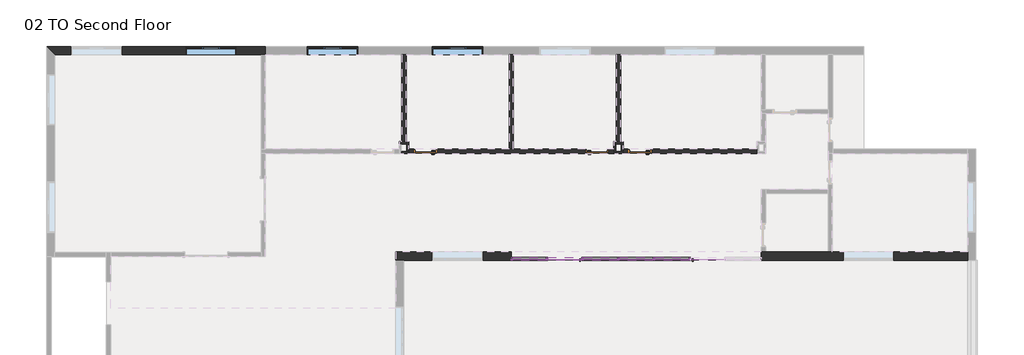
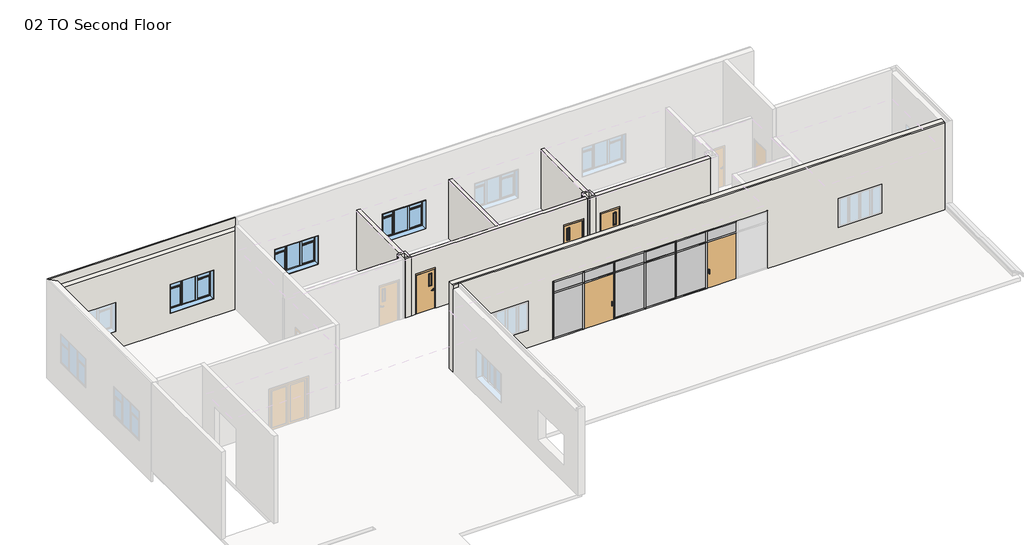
# One storey, part 2 of 3: 27 members, 14 walls, 10 plates, 5 doors, 3 windows.
"""IFC4 building model written with IfcOpenShell, lengths in millimetres."""

from ifc_helpers import new_model, si_unit, frame, origin, place, context, project, spatial, polyline, outline, extrude, faceted_brep, transform, mapped, element, save
from components import door_curtain_wall_single_glass_single_glass_door_636c359d, door_curtain_wall_single_glass_single_glass_door_c1f067f7, door_a53d2063, door_a2a745b5, member_f0fea5a5, member_ee409385, member_5599eeff, member_9faf9a02, member_3e00a44d, member_1f7e5a3f, member_6e77e263, member_47bfaf8a, system_panel_glazed_c45153f5, system_panel_glazed_32f3d69c, system_panel_glazed_47a57bc4, system_panel_glazed_e930eb41, window_casement_triple_side_transom_c3c25feb

model = new_model("IFC4")

# Units and contexts
model_context = context("Model", 3, world=origin())
ifc_project = project(units=[si_unit("LENGTHUNIT", "METRE", prefix="MILLI")], contexts=[model_context])

# Site, building, storey
site = spatial("IfcSite", under=ifc_project)
building = spatial("IfcBuilding", under=site)
storey = spatial("IfcBuildingStorey", under=building, Name="02 TO Second Floor", Elevation=4572.0)

# Doors
placement = place(None, origin())
door_curtain_wall_single_glass_single_glass_door_shape = door_curtain_wall_single_glass_single_glass_door_636c359d(model_context)
element("IfcDoor", 1, ObjectType="Door-Curtain-Wall-Single-Glass : Single Glass Door", at=placement, inside=storey, context=model_context, shape_type="MappedRepresentation", body=[
    mapped(door_curtain_wall_single_glass_single_glass_door_shape, transform((8671.2726299, 179.1996638, 4572.0), x_axis=(1.0, 0.0, 0.0), y_axis=(0.0, 1.0, 0.0), z_axis=(0.0, 0.0, 1.0))),
])
door_curtain_wall_single_glass_single_glass_door_2_shape = door_curtain_wall_single_glass_single_glass_door_c1f067f7(model_context)
element("IfcDoor", 2, ObjectType="Door-Curtain-Wall-Single-Glass : Single Glass Door", at=placement, inside=storey, context=model_context, shape_type="MappedRepresentation", body=[
    mapped(door_curtain_wall_single_glass_single_glass_door_2_shape, transform((2575.2726302, 179.1996638, 4572.0), x_axis=(-1.0, 0.0, 0.0), y_axis=(0.0, -1.0, 0.0), z_axis=(0.0, 0.0, 1.0))),
])
door_shape = door_a53d2063(model_context)
element("IfcDoor", 3, ObjectType="Door-Passage-Single-Vision_Lite : Door Passage Single Vision Lite_36\" x 80\"", at=placement, inside=storey, context=model_context, shape_type="MappedRepresentation", body=[
    mapped(door_shape, transform((3946.8726301, 4776.5996638, 4572.0), x_axis=(1.0, 0.0, 0.0), y_axis=(0.0, 1.0, 0.0), z_axis=(0.0, 0.0, 1.0))),
])
door_2_shape = door_a2a745b5(model_context)
element("IfcDoor", 4, ObjectType="Door-Passage-Single-Vision_Lite : Door Passage Single Vision Lite_36\" x 80\"", at=placement, inside=storey, context=model_context, shape_type="MappedRepresentation", body=[
    mapped(door_2_shape, transform((-3368.3273699, 4776.5996638, 4572.0), x_axis=(-1.0, 0.0, 0.0), y_axis=(0.0, -1.0, 0.0), z_axis=(0.0, 0.0, 1.0))),
])
element("IfcDoor", 5, ObjectType="Door-Passage-Single-Vision_Lite : Door Passage Single Vision Lite_36\" x 80\"", at=placement, inside=storey, context=model_context, shape_type="MappedRepresentation", body=[
    mapped(door_2_shape, transform((5775.6726301, 4776.5996638, 4572.0), x_axis=(-1.0, 0.0, 0.0), y_axis=(0.0, -1.0, 0.0), z_axis=(0.0, 0.0, 1.0))),
])

# Members
member_shape = member_f0fea5a5(model_context)
element("IfcMember", 6, ObjectType="Rectangular Mullion : 2.5\" x 5\" rectangular", at=placement, inside=storey, context=model_context, shape_type="MappedRepresentation", body=[
    mapped(member_shape, transform((1813.2726303, 179.1996638, 4572.0), x_axis=(1.0, 0.0, 0.0), y_axis=(0.0, -1.0, 0.0), z_axis=(0.0, 0.0, -1.0))),
])
element("IfcMember", 7, ObjectType="Rectangular Mullion : 2.5\" x 5\" rectangular", at=placement, inside=storey, context=model_context, shape_type="MappedRepresentation", body=[
    mapped(member_shape, transform((3337.2726302, 179.1996638, 4572.0), x_axis=(1.0, 0.0, 0.0), y_axis=(0.0, -1.0, 0.0), z_axis=(0.0, 0.0, -1.0))),
])
element("IfcMember", 8, ObjectType="Rectangular Mullion : 2.5\" x 5\" rectangular", at=placement, inside=storey, context=model_context, shape_type="MappedRepresentation", body=[
    mapped(member_shape, transform((4861.2726301, 179.1996638, 4572.0), x_axis=(1.0, 0.0, 0.0), y_axis=(0.0, -1.0, 0.0), z_axis=(0.0, 0.0, -1.0))),
])
element("IfcMember", 9, ObjectType="Rectangular Mullion : 2.5\" x 5\" rectangular", at=placement, inside=storey, context=model_context, shape_type="MappedRepresentation", body=[
    mapped(member_shape, transform((6385.27263, 179.1996638, 4572.0), x_axis=(1.0, 0.0, 0.0), y_axis=(0.0, -1.0, 0.0), z_axis=(0.0, 0.0, -1.0))),
])
element("IfcMember", 10, ObjectType="Rectangular Mullion : 2.5\" x 5\" rectangular", at=placement, inside=storey, context=model_context, shape_type="MappedRepresentation", body=[
    mapped(member_shape, transform((7909.2726299, 179.1996638, 4572.0), x_axis=(1.0, 0.0, 0.0), y_axis=(0.0, -1.0, 0.0), z_axis=(0.0, 0.0, -1.0))),
])
member_2_shape = member_ee409385(model_context)
element("IfcMember", 11, ObjectType="Rectangular Mullion : 2.5\" x 5\" rectangular", at=placement, inside=storey, context=model_context, shape_type="MappedRepresentation", body=[
    mapped(member_2_shape, transform((289.2726301, 179.1996638, 7010.4), x_axis=(-1.0, 0.0, 0.0), y_axis=(0.0, -1.0, 0.0), z_axis=(0.0, 0.0, 1.0))),
])
member_3_shape = member_5599eeff(model_context)
element("IfcMember", 12, ObjectType="Rectangular Mullion : 2.5\" x 5\" rectangular", at=placement, inside=storey, context=model_context, shape_type="MappedRepresentation", body=[
    mapped(member_3_shape, transform((1781.5226303, 179.1996638, 7620.0), x_axis=(0.0, 0.0, 1.0), y_axis=(0.0, -1.0, 0.0), z_axis=(1.0, 0.0, 0.0))),
])
member_4_shape = member_9faf9a02(model_context)
element("IfcMember", 13, ObjectType="Rectangular Mullion : 2.5\" x 5\" rectangular", at=placement, inside=storey, context=model_context, shape_type="MappedRepresentation", body=[
    mapped(member_4_shape, transform((3305.5226302, 179.1996638, 7620.0), x_axis=(0.0, 0.0, 1.0), y_axis=(0.0, -1.0, 0.0), z_axis=(1.0, 0.0, 0.0))),
])
element("IfcMember", 14, ObjectType="Rectangular Mullion : 2.5\" x 5\" rectangular", at=placement, inside=storey, context=model_context, shape_type="MappedRepresentation", body=[
    mapped(member_4_shape, transform((4829.5226301, 179.1996638, 7620.0), x_axis=(0.0, 0.0, 1.0), y_axis=(0.0, -1.0, 0.0), z_axis=(1.0, 0.0, 0.0))),
])
element("IfcMember", 15, ObjectType="Rectangular Mullion : 2.5\" x 5\" rectangular", at=placement, inside=storey, context=model_context, shape_type="MappedRepresentation", body=[
    mapped(member_4_shape, transform((6353.52263, 179.1996638, 7620.0), x_axis=(0.0, 0.0, 1.0), y_axis=(0.0, -1.0, 0.0), z_axis=(1.0, 0.0, 0.0))),
])
element("IfcMember", 16, ObjectType="Rectangular Mullion : 2.5\" x 5\" rectangular", at=placement, inside=storey, context=model_context, shape_type="MappedRepresentation", body=[
    mapped(member_4_shape, transform((7877.5226299, 179.1996638, 7620.0), x_axis=(0.0, 0.0, 1.0), y_axis=(0.0, -1.0, 0.0), z_axis=(1.0, 0.0, 0.0))),
])
element("IfcMember", 17, ObjectType="Rectangular Mullion : 2.5\" x 5\" rectangular", at=placement, inside=storey, context=model_context, shape_type="MappedRepresentation", body=[
    mapped(member_4_shape, transform((9401.5226298, 179.1996638, 7620.0), x_axis=(0.0, 0.0, 1.0), y_axis=(0.0, -1.0, 0.0), z_axis=(1.0, 0.0, 0.0))),
])
element("IfcMember", 18, ObjectType="Rectangular Mullion : 2.5\" x 5\" rectangular", at=placement, inside=storey, context=model_context, shape_type="MappedRepresentation", body=[
    mapped(member_3_shape, transform((352.7726301, 179.1996638, 4572.0), x_axis=(0.0, 0.0, -1.0), y_axis=(0.0, -1.0, 0.0), z_axis=(-1.0, 0.0, 0.0))),
])
element("IfcMember", 19, ObjectType="Rectangular Mullion : 2.5\" x 5\" rectangular", at=placement, inside=storey, context=model_context, shape_type="MappedRepresentation", body=[
    mapped(member_4_shape, transform((3369.0226302, 179.1996638, 4572.0), x_axis=(0.0, 0.0, -1.0), y_axis=(0.0, -1.0, 0.0), z_axis=(-1.0, 0.0, 0.0))),
])
element("IfcMember", 20, ObjectType="Rectangular Mullion : 2.5\" x 5\" rectangular", at=placement, inside=storey, context=model_context, shape_type="MappedRepresentation", body=[
    mapped(member_4_shape, transform((4893.0226301, 179.1996638, 4572.0), x_axis=(0.0, 0.0, -1.0), y_axis=(0.0, -1.0, 0.0), z_axis=(-1.0, 0.0, 0.0))),
])
element("IfcMember", 21, ObjectType="Rectangular Mullion : 2.5\" x 5\" rectangular", at=placement, inside=storey, context=model_context, shape_type="MappedRepresentation", body=[
    mapped(member_4_shape, transform((6417.02263, 179.1996638, 4572.0), x_axis=(0.0, 0.0, -1.0), y_axis=(0.0, -1.0, 0.0), z_axis=(-1.0, 0.0, 0.0))),
])
member_5_shape = member_3e00a44d(model_context)
element("IfcMember", 22, ObjectType="Rectangular Mullion : 2.5\" x 5\" rectangular", at=placement, inside=storey, context=model_context, shape_type="MappedRepresentation", body=[
    mapped(member_5_shape, transform((1781.5226303, 179.1996638, 7010.4), x_axis=(0.0, 0.0, 1.0), y_axis=(0.0, -1.0, 0.0), z_axis=(1.0, 0.0, 0.0))),
])
member_6_shape = member_1f7e5a3f(model_context)
element("IfcMember", 23, ObjectType="Rectangular Mullion : 2.5\" x 5\" rectangular", at=placement, inside=storey, context=model_context, shape_type="MappedRepresentation", body=[
    mapped(member_6_shape, transform((3305.5226302, 179.1996638, 7010.4), x_axis=(0.0, 0.0, 1.0), y_axis=(0.0, -1.0, 0.0), z_axis=(1.0, 0.0, 0.0))),
])
element("IfcMember", 24, ObjectType="Rectangular Mullion : 2.5\" x 5\" rectangular", at=placement, inside=storey, context=model_context, shape_type="MappedRepresentation", body=[
    mapped(member_6_shape, transform((4829.5226301, 179.1996638, 7010.4), x_axis=(0.0, 0.0, 1.0), y_axis=(0.0, -1.0, 0.0), z_axis=(1.0, 0.0, 0.0))),
])
element("IfcMember", 25, ObjectType="Rectangular Mullion : 2.5\" x 5\" rectangular", at=placement, inside=storey, context=model_context, shape_type="MappedRepresentation", body=[
    mapped(member_6_shape, transform((6353.52263, 179.1996638, 7010.4), x_axis=(0.0, 0.0, 1.0), y_axis=(0.0, -1.0, 0.0), z_axis=(1.0, 0.0, 0.0))),
])
element("IfcMember", 26, ObjectType="Rectangular Mullion : 2.5\" x 5\" rectangular", at=placement, inside=storey, context=model_context, shape_type="MappedRepresentation", body=[
    mapped(member_6_shape, transform((7877.5226299, 179.1996638, 7010.4), x_axis=(0.0, 0.0, 1.0), y_axis=(0.0, -1.0, 0.0), z_axis=(1.0, 0.0, 0.0))),
])
member_7_shape = member_6e77e263(model_context)
element("IfcMember", 27, ObjectType="Rectangular Mullion : 2.5\" x 5\" rectangular", at=placement, inside=storey, context=model_context, shape_type="MappedRepresentation", body=[
    mapped(member_7_shape, transform((1813.2726303, 179.1996638, 7010.4), x_axis=(1.0, 0.0, 0.0), y_axis=(0.0, -1.0, 0.0), z_axis=(0.0, 0.0, -1.0))),
])
element("IfcMember", 28, ObjectType="Rectangular Mullion : 2.5\" x 5\" rectangular", at=placement, inside=storey, context=model_context, shape_type="MappedRepresentation", body=[
    mapped(member_7_shape, transform((3337.2726302, 179.1996638, 7010.4), x_axis=(1.0, 0.0, 0.0), y_axis=(0.0, -1.0, 0.0), z_axis=(0.0, 0.0, -1.0))),
])
element("IfcMember", 29, ObjectType="Rectangular Mullion : 2.5\" x 5\" rectangular", at=placement, inside=storey, context=model_context, shape_type="MappedRepresentation", body=[
    mapped(member_7_shape, transform((4861.2726301, 179.1996638, 7010.4), x_axis=(1.0, 0.0, 0.0), y_axis=(0.0, -1.0, 0.0), z_axis=(0.0, 0.0, -1.0))),
])
element("IfcMember", 30, ObjectType="Rectangular Mullion : 2.5\" x 5\" rectangular", at=placement, inside=storey, context=model_context, shape_type="MappedRepresentation", body=[
    mapped(member_7_shape, transform((6385.27263, 179.1996638, 7010.4), x_axis=(1.0, 0.0, 0.0), y_axis=(0.0, -1.0, 0.0), z_axis=(0.0, 0.0, -1.0))),
])
element("IfcMember", 31, ObjectType="Rectangular Mullion : 2.5\" x 5\" rectangular", at=placement, inside=storey, context=model_context, shape_type="MappedRepresentation", body=[
    mapped(member_7_shape, transform((7909.2726299, 179.1996638, 7010.4), x_axis=(1.0, 0.0, 0.0), y_axis=(0.0, -1.0, 0.0), z_axis=(0.0, 0.0, -1.0))),
])
member_8_shape = member_47bfaf8a(model_context)
element("IfcMember", 32, ObjectType="Rectangular Mullion : 2.5\" x 5\" rectangular", at=placement, inside=storey, context=model_context, shape_type="MappedRepresentation", body=[
    mapped(member_8_shape, transform((289.2726301, 179.1996638, 7620.0), x_axis=(-1.0, 0.0, 0.0), y_axis=(0.0, -1.0, 0.0), z_axis=(0.0, 0.0, 1.0))),
])

# Plates
system_panel_glazed_shape = system_panel_glazed_c45153f5(model_context)
element("IfcPlate", 33, ObjectType="System Panel : Glazed", at=placement, inside=storey, context=model_context, shape_type="MappedRepresentation", body=[
    mapped(system_panel_glazed_shape, transform((1067.1476302, 179.1996638, 4635.5), x_axis=(1.0, 0.0, 0.0), y_axis=(0.0, 1.0, 0.0), z_axis=(0.0, 0.0, 1.0))),
])
system_panel_glazed_2_shape = system_panel_glazed_32f3d69c(model_context)
element("IfcPlate", 34, ObjectType="System Panel : Glazed", at=placement, inside=storey, context=model_context, shape_type="MappedRepresentation", body=[
    mapped(system_panel_glazed_2_shape, transform((4099.2726301, 179.1996638, 4635.5), x_axis=(1.0, 0.0, 0.0), y_axis=(0.0, 1.0, 0.0), z_axis=(0.0, 0.0, 1.0))),
])
element("IfcPlate", 35, ObjectType="System Panel : Glazed", at=placement, inside=storey, context=model_context, shape_type="MappedRepresentation", body=[
    mapped(system_panel_glazed_2_shape, transform((5623.2726301, 179.1996638, 4635.5), x_axis=(1.0, 0.0, 0.0), y_axis=(0.0, 1.0, 0.0), z_axis=(0.0, 0.0, 1.0))),
])
element("IfcPlate", 36, ObjectType="System Panel : Glazed", at=placement, inside=storey, context=model_context, shape_type="MappedRepresentation", body=[
    mapped(system_panel_glazed_2_shape, transform((7147.27263, 179.1996638, 4635.5), x_axis=(1.0, 0.0, 0.0), y_axis=(0.0, 1.0, 0.0), z_axis=(0.0, 0.0, 1.0))),
])
system_panel_glazed_3_shape = system_panel_glazed_47a57bc4(model_context)
element("IfcPlate", 37, ObjectType="System Panel : Glazed", at=placement, inside=storey, context=model_context, shape_type="MappedRepresentation", body=[
    mapped(system_panel_glazed_3_shape, transform((1067.1476302, 179.1996638, 7042.15), x_axis=(1.0, 0.0, 0.0), y_axis=(0.0, 1.0, 0.0), z_axis=(0.0, 0.0, 1.0))),
])
system_panel_glazed_4_shape = system_panel_glazed_e930eb41(model_context)
element("IfcPlate", 38, ObjectType="System Panel : Glazed", at=placement, inside=storey, context=model_context, shape_type="MappedRepresentation", body=[
    mapped(system_panel_glazed_4_shape, transform((2575.2726302, 179.1996638, 7042.15), x_axis=(1.0, 0.0, 0.0), y_axis=(0.0, 1.0, 0.0), z_axis=(0.0, 0.0, 1.0))),
])
element("IfcPlate", 39, ObjectType="System Panel : Glazed", at=placement, inside=storey, context=model_context, shape_type="MappedRepresentation", body=[
    mapped(system_panel_glazed_4_shape, transform((4099.2726301, 179.1996638, 7042.15), x_axis=(1.0, 0.0, 0.0), y_axis=(0.0, 1.0, 0.0), z_axis=(0.0, 0.0, 1.0))),
])
element("IfcPlate", 40, ObjectType="System Panel : Glazed", at=placement, inside=storey, context=model_context, shape_type="MappedRepresentation", body=[
    mapped(system_panel_glazed_4_shape, transform((5623.2726301, 179.1996638, 7042.15), x_axis=(1.0, 0.0, 0.0), y_axis=(0.0, 1.0, 0.0), z_axis=(0.0, 0.0, 1.0))),
])
element("IfcPlate", 41, ObjectType="System Panel : Glazed", at=placement, inside=storey, context=model_context, shape_type="MappedRepresentation", body=[
    mapped(system_panel_glazed_4_shape, transform((7147.27263, 179.1996638, 7042.15), x_axis=(1.0, 0.0, 0.0), y_axis=(0.0, 1.0, 0.0), z_axis=(0.0, 0.0, 1.0))),
])
element("IfcPlate", 42, ObjectType="System Panel : Glazed", at=placement, inside=storey, context=model_context, shape_type="MappedRepresentation", body=[
    mapped(system_panel_glazed_4_shape, transform((8671.2726299, 179.1996638, 7042.15), x_axis=(1.0, 0.0, 0.0), y_axis=(0.0, 1.0, 0.0), z_axis=(0.0, 0.0, 1.0))),
])

# Walls
element("IfcWall", 43, ObjectType="Ext Wall_14\"_Brick on CMU_E1", at=placement, inside=storey, context=model_context, shape_type="Brep", body=[
    faceted_brep([(-19167.1273699, 8894.5746638, 4572.0), (-10378.7273699, 8894.5746638, 4572.0), (-10200.9273699, 8894.5746638, 4572.0), (-10200.9273699, 8894.5746638, 8686.8), (-19167.1273699, 8894.5746638, 8686.8), (-11432.8273699, 8894.5746638, 7010.4), (-11432.8273699, 8894.5746638, 5486.4), (-13591.8273699, 8894.5746638, 5486.4), (-13591.8273699, 8894.5746638, 7010.4), (-16309.6273699, 8894.5746638, 7010.4), (-16309.6273699, 8894.5746638, 5486.4), (-18468.6273699, 8894.5746638, 5486.4), (-18468.6273699, 8894.5746638, 7010.4), (-10200.9273699, 9250.1746638, 9144.0), (-10200.9273699, 9250.1746638, 4572.0), (-10200.9273699, 9250.1746638, 3962.4), (-19522.7273699, 9250.1746638, 3962.4), (-19522.7273699, 9250.1746638, 9144.0), (-11432.8273699, 9250.1746638, 5486.4), (-11432.8273699, 9250.1746638, 7010.4), (-13591.8273699, 9250.1746638, 7010.4), (-13591.8273699, 9250.1746638, 5486.4), (-16309.6273699, 9250.1746638, 5486.4), (-16309.6273699, 9250.1746638, 7010.4), (-18468.6273699, 9250.1746638, 7010.4), (-18468.6273699, 9250.1746638, 5486.4), (-10200.9273699, 9148.5746638, 4572.0), (-10200.9273699, 9173.9746638, 4572.0), (-10200.9273699, 9173.9746638, 3962.4), (-10200.9273699, 9173.9746638, 9144.0), (-10200.9273699, 9173.9746638, 8686.8), (-19446.5273699, 9173.9746638, 8686.8), (-19446.5273699, 9173.9746638, 9144.0), (-19446.5273699, 9173.9746638, 3962.4), (-19446.5273699, 9173.9746638, 4572.0), (-19421.1273699, 9148.5746638, 4572.0)], [[[0, 1, 2, 3, 4], [5, 6, 7, 8], [9, 10, 11, 12]], [[13, 14, 15, 16, 17], [18, 19, 20, 21], [22, 23, 24, 25]], [[3, 2, 26, 27, 28, 15, 14, 13, 29, 30]], [[0, 4, 31, 32, 17, 16, 33, 34, 35]], [[6, 5, 19, 18]], [[7, 6, 18, 21]], [[8, 7, 21, 20]], [[5, 8, 20, 19]], [[10, 9, 23, 22]], [[11, 10, 22, 25]], [[12, 11, 25, 24]], [[9, 12, 24, 23]], [[2, 1, 0, 35, 34, 27, 26]], [[27, 34, 33, 28]], [[33, 16, 15, 28]], [[13, 17, 32, 29]], [[30, 29, 32, 31]], [[4, 3, 30, 31]]]),
])
element("IfcWall", 44, ObjectType="Ext Wall_14\"_Brick on CMU_E1", at=placement, inside=storey, context=model_context, shape_type="Brep", body=[
    faceted_brep([(-4638.3273699, 471.2996638, 4572.0), (-4638.3273699, 471.2996638, 9144.0), (19745.6726301, 471.2996638, 9144.0), (19745.6726301, 471.2996638, 4572.0), (13986.2226301, 471.2996638, 4572.0), (13802.0726301, 471.2996638, 4572.0), (11141.4226301, 471.2996638, 4572.0), (10957.2726301, 471.2996638, 4572.0), (10957.2726301, 471.2996638, 7620.0), (289.2726301, 471.2996638, 7620.0), (289.2726301, 471.2996638, 4572.0), (-3076.2273699, 471.2996638, 7010.4), (-3076.2273699, 471.2996638, 5486.4), (-917.2273699, 471.2996638, 5486.4), (-917.2273699, 471.2996638, 7010.4), (14449.7726301, 471.2996638, 7010.4), (14449.7726301, 471.2996638, 5486.4), (16608.7726301, 471.2996638, 5486.4), (16608.7726301, 471.2996638, 7010.4), (19745.6726301, 115.6996638, 9144.0), (-4282.7273699, 115.6996638, 9144.0), (-4384.3273699, 115.6996638, 9144.0), (-4638.3273699, 115.6996638, 9144.0), (-4638.3273699, 115.6996638, 8966.2), (-4638.3273699, 115.6996638, 4572.0), (-4282.7273699, 115.6996638, 4572.0), (289.2726301, 115.6996638, 4572.0), (289.2726301, 115.6996638, 7620.0), (10957.2726301, 115.6996638, 7620.0), (10957.2726301, 115.6996638, 4572.0), (19745.6726301, 115.6996638, 4572.0), (-3076.2273699, 115.6996638, 7010.4), (-917.2273699, 115.6996638, 7010.4), (-917.2273699, 115.6996638, 5486.4), (-3076.2273699, 115.6996638, 5486.4), (14449.7726301, 115.6996638, 7010.4), (16608.7726301, 115.6996638, 7010.4), (16608.7726301, 115.6996638, 5486.4), (14449.7726301, 115.6996638, 5486.4), (-4638.3273699, 191.8996638, 4572.0), (-4638.3273699, 191.8996638, 9144.0), (289.2726301, 191.8996638, 4572.0), (10957.2726301, 191.8996638, 4572.0), (19745.6726301, 196.6621638, 9144.0), (19745.6726301, 191.8996638, 9144.0), (19745.6726301, 191.8996638, 4572.0)], [[[0, 1, 2, 3, 4, 5, 6, 7, 8, 9, 10], [11, 12, 13, 14], [15, 16, 17, 18]], [[19, 20, 21, 22, 23, 24, 25, 26, 27, 28, 29, 30], [31, 32, 33, 34], [35, 36, 37, 38]], [[1, 0, 39, 24, 23, 22, 40]], [[9, 27, 26, 41, 10]], [[27, 9, 8, 28]], [[28, 8, 7, 42, 29]], [[12, 11, 31, 34]], [[13, 12, 34, 33]], [[14, 13, 33, 32]], [[11, 14, 32, 31]], [[16, 15, 35, 38]], [[17, 16, 38, 37]], [[18, 17, 37, 36]], [[15, 18, 36, 35]], [[3, 2, 43, 44, 19, 30, 45]], [[39, 0, 10, 41]], [[3, 45, 42, 7, 6, 5, 4]], [[24, 39, 41, 26, 25]], [[45, 30, 29, 42]], [[22, 21, 20, 19, 44, 40]], [[2, 1, 40, 44, 43]]]),
])
element("IfcWall", 45, ObjectType="IntWall_P1_7 1/4\"", at=placement, inside=storey, context=model_context, shape_type="Brep", body=[
    faceted_brep([(5064.9511878, 4862.3246638, 7670.8), (10754.0726301, 4862.3246638, 7670.8), (10754.0726301, 4862.3246638, 4572.0), (6283.6726301, 4862.3246638, 4572.0), (6283.6726301, 4862.3246638, 6705.6), (5267.6726301, 4862.3246638, 6705.6), (5267.6726301, 4862.3246638, 4572.0), (5064.9511878, 4862.3246638, 4572.0), (10754.0726301, 4678.1746638, 7670.8), (5064.9511878, 4678.1746638, 7670.8), (5064.9511878, 4678.1746638, 4572.0), (5267.6726301, 4678.1746638, 4572.0), (5267.6726301, 4678.1746638, 6705.6), (6283.6726301, 4678.1746638, 6705.6), (6283.6726301, 4678.1746638, 4572.0), (10754.0726301, 4678.1746638, 4572.0), (5064.9511878, 4770.2496638, 4572.0), (10754.0726301, 4770.2496638, 4572.0), (5064.9511878, 4770.2496638, 7670.8), (10754.0726301, 4770.2496638, 7670.8)], [[[0, 1, 2, 3, 4, 5, 6, 7]], [[8, 9, 10, 11, 12, 13, 14, 15]], [[10, 16, 7, 6, 11]], [[2, 17, 15, 14, 3]], [[1, 0, 18, 9, 8, 19]], [[0, 7, 16, 10, 9, 18]], [[2, 1, 19, 8, 15, 17]], [[5, 12, 11, 6]], [[12, 5, 4, 13]], [[13, 4, 3, 14]]]),
])
element("IfcWall", 46, ObjectType="IntWall_P1_7 1/4\"", at=placement, inside=storey, context=model_context, shape_type="SweptSolid", body=[
    extrude(outline(polyline([(197.1976301, 4862.3246638), (197.1976301, 8894.5746638), (381.3476301, 8894.5746638), (381.3476301, 4862.3246638), (197.1976301, 4862.3246638)])), frame((0.0, 0.0, 4572.0), z_axis=(0.0, 0.0, 1.0), x_axis=(1.0, 0.0, 0.0)), (0.0, 0.0, 1.0), 3098.8),
])
element("IfcWall", 47, ObjectType="IntWall_P1_7 1/4\"", at=placement, inside=storey, context=model_context, shape_type="SweptSolid", body=[
    extrude(outline(polyline([(4769.1976301, 5186.1746638), (4769.1976301, 8894.5746638), (4953.3476301, 8894.5746638), (4953.3476301, 5186.1746638), (4769.1976301, 5186.1746638)])), frame((0.0, 0.0, 4572.0), z_axis=(0.0, 0.0, 1.0), x_axis=(1.0, 0.0, 0.0)), (0.0, 0.0, 1.0), 3098.8),
])
element("IfcWall", 48, ObjectType="IntWall_P1_7 1/4\"", at=placement, inside=storey, context=model_context, shape_type="SweptSolid", body=[
    extrude(outline(polyline([(-4190.6523699, 8894.5746638), (-4190.6523699, 5186.1746638), (-4374.8023699, 5186.1746638), (-4374.8023699, 8894.5746638), (-4190.6523699, 8894.5746638)])), frame((0.0, 0.0, 4572.0), z_axis=(0.0, 0.0, 1.0), x_axis=(1.0, 0.0, 0.0)), (0.0, 0.0, 1.0), 3098.8),
])
element("IfcWall", 49, ObjectType="IntWall_P1_7 1/4\"", at=placement, inside=storey, context=model_context, shape_type="Brep", body=[
    faceted_brep([(-4079.0488122, 4862.3246638, 7670.8), (197.1976301, 4862.3246638, 7670.8), (381.3476301, 4862.3246638, 7670.8), (4657.5940723, 4862.3246638, 7670.8), (4657.5940723, 4862.3246638, 4572.0), (4454.8726301, 4862.3246638, 4572.0), (4454.8726301, 4862.3246638, 6705.6), (3438.8726301, 4862.3246638, 6705.6), (3438.8726301, 4862.3246638, 4572.0), (381.3476301, 4862.3246638, 4572.0), (197.1976301, 4862.3246638, 4572.0), (-2860.3273699, 4862.3246638, 4572.0), (-2860.3273699, 4862.3246638, 6705.6), (-3876.3273699, 4862.3246638, 6705.6), (-3876.3273699, 4862.3246638, 4572.0), (-4079.0488122, 4862.3246638, 4572.0), (4657.5940723, 4678.1746638, 7670.8), (-4079.0488122, 4678.1746638, 7670.8), (-4079.0488122, 4678.1746638, 4572.0), (-3876.3273699, 4678.1746638, 4572.0), (-3876.3273699, 4678.1746638, 6705.6), (-2860.3273699, 4678.1746638, 6705.6), (-2860.3273699, 4678.1746638, 4572.0), (3438.8726301, 4678.1746638, 4572.0), (3438.8726301, 4678.1746638, 6705.6), (4454.8726301, 4678.1746638, 6705.6), (4454.8726301, 4678.1746638, 4572.0), (4657.5940723, 4678.1746638, 4572.0), (-4079.0488122, 4770.2496638, 4572.0), (-4079.0488122, 4770.2496638, 7670.8)], [[[0, 1, 2, 3, 4, 5, 6, 7, 8, 9, 10, 11, 12, 13, 14, 15]], [[16, 17, 18, 19, 20, 21, 22, 23, 24, 25, 26, 27]], [[18, 28, 15, 14, 19]], [[4, 27, 26, 5]], [[8, 23, 22, 11, 10, 9]], [[3, 2, 1, 0, 29, 17, 16]], [[0, 15, 28, 18, 17, 29]], [[4, 3, 16, 27]], [[25, 6, 5, 26]], [[6, 25, 24, 7]], [[7, 24, 23, 8]], [[13, 20, 19, 14]], [[20, 13, 12, 21]], [[21, 12, 11, 22]]]),
])
element("IfcWall", 50, ObjectType="IntWall_P3_3 5/8\"", at=placement, inside=storey, context=model_context, shape_type="Brep", body=[
    faceted_brep([(-4486.4059277, 5094.0996638, 4572.0), (-4394.3309277, 5094.0996638, 4572.0), (-4171.1238122, 5094.0996638, 4572.0), (-4171.1238122, 5094.0996638, 7670.8), (-4394.3309277, 5094.0996638, 7670.8), (-4486.4059277, 5094.0996638, 7670.8), (-4486.4059277, 5186.1746638, 4572.0), (-4486.4059277, 5186.1746638, 7670.8), (-4374.8023699, 5186.1746638, 7670.8), (-4190.6523699, 5186.1746638, 7670.8), (-4171.1238122, 5186.1746638, 7670.8), (-4171.1238122, 5186.1746638, 4572.0), (-4190.6523699, 5186.1746638, 4572.0), (-4374.8023699, 5186.1746638, 4572.0)], [[[0, 1, 2, 3, 4, 5]], [[6, 7, 8, 9, 10, 11, 12, 13]], [[2, 1, 0, 6, 13, 12, 11]], [[5, 4, 3, 10, 9, 8, 7]], [[0, 5, 7, 6]], [[3, 2, 11, 10]]]),
])
element("IfcWall", 51, ObjectType="IntWall_P3_3 5/8\"", at=placement, inside=storey, context=model_context, shape_type="Brep", body=[
    faceted_brep([(-4079.0488122, 4770.2496638, 4572.0), (-4171.1238122, 4770.2496638, 4572.0), (-4394.3309277, 4770.2496638, 4572.0), (-4394.3309277, 4770.2496638, 7670.8), (-4171.1238122, 4770.2496638, 7670.8), (-4079.0488122, 4770.2496638, 7670.8), (-4079.0488122, 4678.1746638, 4572.0), (-4079.0488122, 4678.1746638, 7670.8), (-4394.3309277, 4678.1746638, 7670.8), (-4394.3309277, 4678.1746638, 4572.0)], [[[0, 1, 2, 3, 4, 5]], [[6, 7, 8, 9]], [[2, 1, 0, 6, 9]], [[5, 4, 3, 8, 7]], [[0, 5, 7, 6]], [[3, 2, 9, 8]]]),
])
element("IfcWall", 52, ObjectType="IntWall_P3_3 5/8\"", at=placement, inside=storey, context=model_context, shape_type="Brep", body=[
    faceted_brep([(-4171.1238122, 5186.1746638, 4572.0), (-4171.1238122, 5094.0996638, 4572.0), (-4171.1238122, 4770.2496638, 4572.0), (-4171.1238122, 4770.2496638, 7670.8), (-4171.1238122, 5094.0996638, 7670.8), (-4171.1238122, 5186.1746638, 7670.8), (-4079.0488122, 5186.1746638, 4572.0), (-4079.0488122, 5186.1746638, 7670.8), (-4079.0488122, 4862.3246638, 7670.8), (-4079.0488122, 4770.2496638, 7670.8), (-4079.0488122, 4770.2496638, 4572.0), (-4079.0488122, 4862.3246638, 4572.0)], [[[0, 1, 2, 3, 4, 5]], [[6, 7, 8, 9, 10, 11]], [[2, 1, 0, 6, 11, 10]], [[5, 4, 3, 9, 8, 7]], [[0, 5, 7, 6]], [[3, 2, 10, 9]]]),
])
element("IfcWall", 53, ObjectType="IntWall_P3_3 5/8\"", at=placement, inside=storey, context=model_context, shape_type="Brep", body=[
    faceted_brep([(4657.5940723, 5094.0996638, 4572.0), (4749.6690723, 5094.0996638, 4572.0), (4972.8761878, 5094.0996638, 4572.0), (4972.8761878, 5094.0996638, 7670.8), (4749.6690723, 5094.0996638, 7670.8), (4657.5940723, 5094.0996638, 7670.8), (4657.5940723, 5186.1746638, 4572.0), (4657.5940723, 5186.1746638, 7670.8), (4769.1976301, 5186.1746638, 7670.8), (4953.3476301, 5186.1746638, 7670.8), (4972.8761878, 5186.1746638, 7670.8), (4972.8761878, 5186.1746638, 4572.0), (4953.3476301, 5186.1746638, 4572.0), (4769.1976301, 5186.1746638, 4572.0)], [[[0, 1, 2, 3, 4, 5]], [[6, 7, 8, 9, 10, 11, 12, 13]], [[2, 1, 0, 6, 13, 12, 11]], [[5, 4, 3, 10, 9, 8, 7]], [[0, 5, 7, 6]], [[3, 2, 11, 10]]]),
])
element("IfcWall", 54, ObjectType="IntWall_P3_3 5/8\"", at=placement, inside=storey, context=model_context, shape_type="Brep", body=[
    faceted_brep([(4749.6690723, 4678.1746638, 4572.0), (4749.6690723, 4770.2496638, 4572.0), (4749.6690723, 5094.0996638, 4572.0), (4749.6690723, 5094.0996638, 7670.8), (4749.6690723, 4770.2496638, 7670.8), (4749.6690723, 4678.1746638, 7670.8), (4657.5940723, 4678.1746638, 4572.0), (4657.5940723, 4678.1746638, 7670.8), (4657.5940723, 4862.3246638, 7670.8), (4657.5940723, 5094.0996638, 7670.8), (4657.5940723, 5094.0996638, 4572.0), (4657.5940723, 4862.3246638, 4572.0)], [[[0, 1, 2, 3, 4, 5]], [[6, 7, 8, 9, 10, 11]], [[2, 1, 0, 6, 11, 10]], [[5, 4, 3, 9, 8, 7]], [[0, 5, 7, 6]], [[3, 2, 10, 9]]]),
])
element("IfcWall", 55, ObjectType="IntWall_P3_3 5/8\"", at=placement, inside=storey, context=model_context, shape_type="Brep", body=[
    faceted_brep([(5064.9511878, 4770.2496638, 4572.0), (4972.8761878, 4770.2496638, 4572.0), (4749.6690723, 4770.2496638, 4572.0), (4749.6690723, 4770.2496638, 7670.8), (4972.8761878, 4770.2496638, 7670.8), (5064.9511878, 4770.2496638, 7670.8), (5064.9511878, 4678.1746638, 4572.0), (5064.9511878, 4678.1746638, 7670.8), (4749.6690723, 4678.1746638, 7670.8), (4749.6690723, 4678.1746638, 4572.0)], [[[0, 1, 2, 3, 4, 5]], [[6, 7, 8, 9]], [[2, 1, 0, 6, 9]], [[5, 4, 3, 8, 7]], [[0, 5, 7, 6]], [[3, 2, 9, 8]]]),
])
element("IfcWall", 56, ObjectType="IntWall_P3_3 5/8\"", at=placement, inside=storey, context=model_context, shape_type="Brep", body=[
    faceted_brep([(4972.8761878, 5186.1746638, 4572.0), (4972.8761878, 5094.0996638, 4572.0), (4972.8761878, 4770.2496638, 4572.0), (4972.8761878, 4770.2496638, 7670.8), (4972.8761878, 5094.0996638, 7670.8), (4972.8761878, 5186.1746638, 7670.8), (5064.9511878, 5186.1746638, 4572.0), (5064.9511878, 5186.1746638, 7670.8), (5064.9511878, 4862.3246638, 7670.8), (5064.9511878, 4770.2496638, 7670.8), (5064.9511878, 4770.2496638, 4572.0), (5064.9511878, 4862.3246638, 4572.0)], [[[0, 1, 2, 3, 4, 5]], [[6, 7, 8, 9, 10, 11]], [[2, 1, 0, 6, 11, 10]], [[5, 4, 3, 9, 8, 7]], [[0, 5, 7, 6]], [[3, 2, 10, 9]]]),
])

# Windows
window_casement_triple_side_transom_shape = window_casement_triple_side_transom_c3c25feb(model_context)
element("IfcWindow", 57, ObjectType="Window-Casement-Triple-Side-Transom : Triple Side WIndow_B_85\" x 60\"", at=placement, inside=storey, context=model_context, shape_type="MappedRepresentation", body=[
    mapped(window_casement_triple_side_transom_shape, transform((-7330.7273699, 9072.3746638, 4572.0), x_axis=(1.0, 0.0, 0.0), y_axis=(0.0, 1.0, 0.0), z_axis=(0.0, 0.0, 1.0))),
])
element("IfcWindow", 58, ObjectType="Window-Casement-Triple-Side-Transom : Triple Side WIndow_B_85\" x 60\"", at=placement, inside=storey, context=model_context, shape_type="MappedRepresentation", body=[
    mapped(window_casement_triple_side_transom_shape, transform((-1996.7273699, 9072.3746638, 4572.0), x_axis=(1.0, 0.0, 0.0), y_axis=(0.0, 1.0, 0.0), z_axis=(0.0, 0.0, 1.0))),
])
element("IfcWindow", 59, ObjectType="Window-Casement-Triple-Side-Transom : Triple Side WIndow_B_85\" x 60\"", at=placement, inside=storey, context=model_context, shape_type="MappedRepresentation", body=[
    mapped(window_casement_triple_side_transom_shape, transform((-12512.3273699, 9072.3746638, 4572.0), x_axis=(1.0, 0.0, 0.0), y_axis=(0.0, 1.0, 0.0), z_axis=(0.0, 0.0, 1.0))),
])

save(model, "model.ifc")
